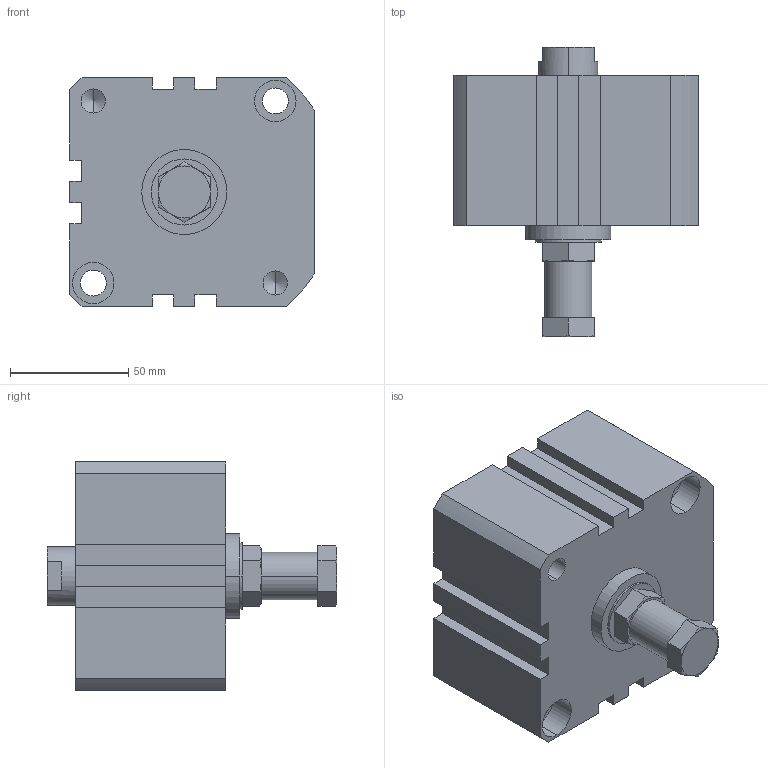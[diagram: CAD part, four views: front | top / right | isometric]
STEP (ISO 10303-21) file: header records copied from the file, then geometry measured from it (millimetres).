
FILE_DESCRIPTION (( 'STEP AP203' ), '1' );
FILE_NAME ('XGA2-80-10.STEP', '2016-05-24T02:41:37', ( '' ), ( '' ), 'SwSTEP 2.0', 'SolidWorks 2014', '' );
FILE_SCHEMA (( 'CONFIG_CONTROL_DESIGN' ));
Length unit declared in the file: millimetre
Products named in the file (3): XGA2-80-10; X#A2-80-H; XG#2-80-10
Assembly tree (2 placements, depth 2):
  XGA2-80-10
    XG#2-80-10
    X#A2-80-H
Bounding box: 103.5 x 122.5 x 97 mm (x, y, z)
Volume: 590832.3 mm3; surface area: 66101.7 mm2
Topology: 2 solids, 2 shells, 147 faces, 353 edges, 222 vertices
Faces by surface type: plane 64, cylinder 53, cone 18, torus 12
Entity records: 4737 total; most frequent: CARTESIAN_POINT 953, DIRECTION 762, ORIENTED_EDGE 694, EDGE_CURVE 347, AXIS2_PLACEMENT_3D 287, VERTEX_POINT 222, VECTOR 188, LINE 188
